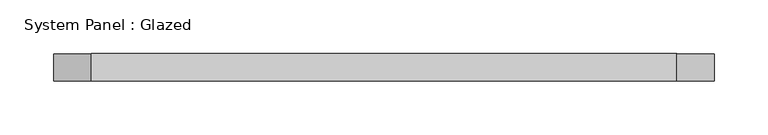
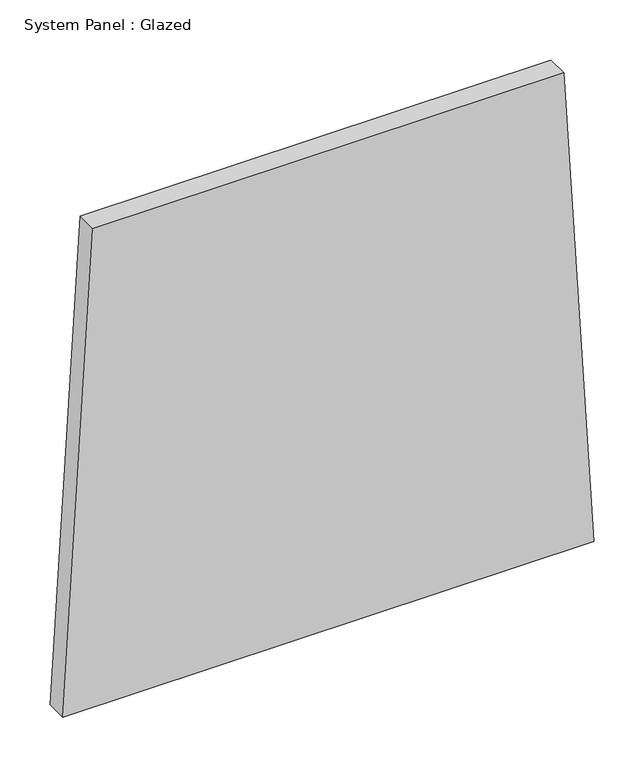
"""IFC4 building model written with IfcOpenShell, lengths in millimetres: plate geometry, System Panel : Glazed."""

from ifc_helpers import new_model, si_unit, frame, origin, place, context, project, spatial, polyline, outline, extrude, source, transform, mapped, element, save


def system_panel_glazed_979220de(model_context):
    return source(origin(), model_context, "Body", "SweptSolid", [
        extrude(outline(polyline([(0.0, -305.7742322), (0.0, 305.7742322), (583.1337795, 271.2396254), (583.1337795, -271.2396254), (0.0, -305.7742322)])), frame((0.0, 19.05, 0.0), z_axis=(0.0, 1.0, 0.0), x_axis=(0.0, 0.0, 1.0)), (0.0, 0.0, 1.0), 25.4),
    ])


if __name__ == "__main__":
    model = new_model("IFC4")
    model_context = context("Model", 3, world=origin())
    ifc_project = project(units=[si_unit("LENGTHUNIT", "METRE", prefix="MILLI")], contexts=[model_context])
    site = spatial("IfcSite", under=ifc_project)
    building = spatial("IfcBuilding", under=site)
    placement = place(None, origin())
    system_panel_glazed_shape = system_panel_glazed_979220de(model_context)
    element("IfcPlate", 1, ObjectType="System Panel : Glazed", at=placement, inside=building, context=model_context, shape_type="MappedRepresentation", body=[
        mapped(system_panel_glazed_shape, transform((0.0, 0.0, 0.0), x_axis=(1.0, 0.0, 0.0), y_axis=(0.0, 1.0, 0.0), z_axis=(0.0, 0.0, 1.0))),
    ])
    save(model, "model.ifc")
